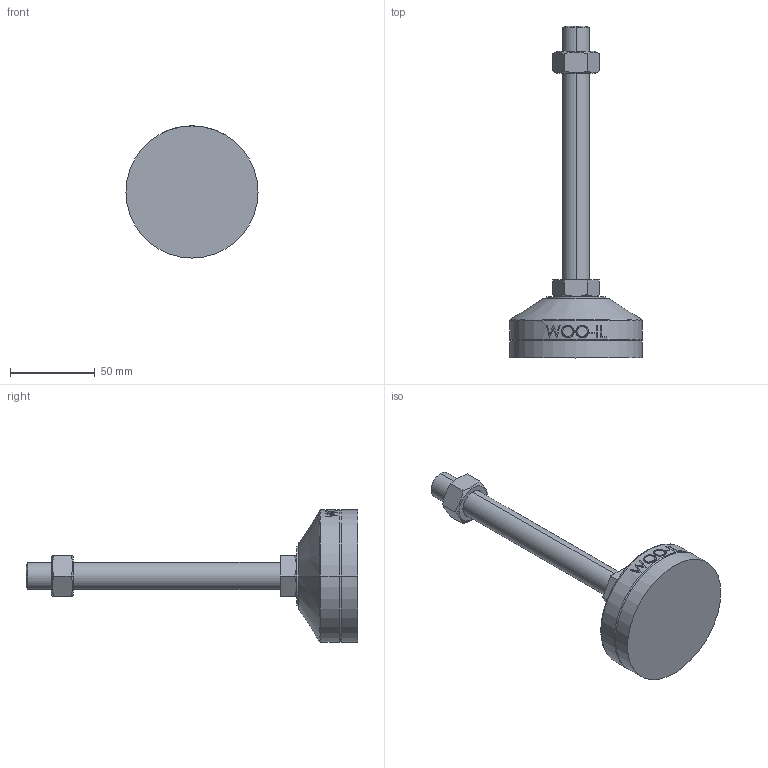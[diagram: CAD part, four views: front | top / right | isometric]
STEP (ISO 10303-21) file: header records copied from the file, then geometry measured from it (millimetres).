
FILE_DESCRIPTION (( 'STEP AP214' ), '1' );
FILE_NAME ('MFR78-M16-150.step', '2021-01-13T05:37:39', ( '' ), ( '' ), 'SwSTEP 2.0', 'SolidWorks 2019', '' );
FILE_SCHEMA (( 'AUTOMOTIVE_DESIGN' ));
Length unit declared in the file: millimetre
Products named in the file (2): MFR78-M16-150
Bounding box: 78 x 196 x 78 mm (x, y, z)
Volume: 182099.9 mm3; surface area: 36812.9 mm2
Topology: 4 solids, 4 shells, 103 faces, 235 edges, 150 vertices
Faces by surface type: plane 49, cylinder 18, bspline 16, cone 14, torus 6
Entity records: 4435 total; most frequent: CARTESIAN_POINT 2162, ORIENTED_EDGE 470, DIRECTION 417, EDGE_CURVE 235, AXIS2_PLACEMENT_3D 159, VERTEX_POINT 150, EDGE_LOOP 115, ADVANCED_FACE 103
